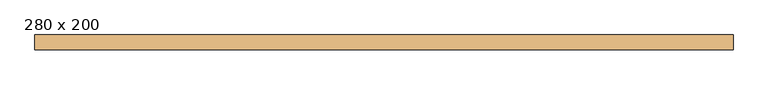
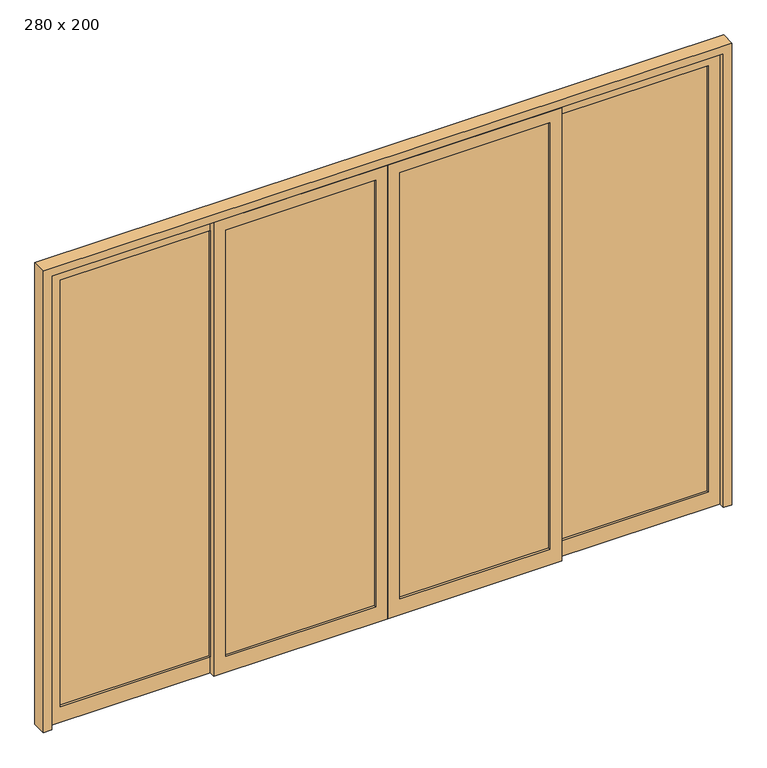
"""IFC4 building model written with IfcOpenShell, lengths in millimetres: door geometry, PORTA TELADA COM ESQUADRIA DE CORRER - 4 FOLHAS : 280 x 200."""

from ifc_helpers import new_model, si_unit, frame, origin, place, context, project, spatial, polyline, outline, extrude, source, transform, mapped, element, save


def door_280_x_200_146a4e26(model_context):
    return source(origin(), model_context, "Body", "SweptSolid", [
        extrude(outline(polyline([(1495.0, -26.5317069), (1495.0, -32.5317069), (870.0, -32.5317069), (870.0, -26.5317069), (1495.0, -26.5317069)])), frame((0.0, 0.0, 70.0), z_axis=(0.0, 0.0, 1.0), x_axis=(1.0, 0.0, 0.0)), (0.0, 0.0, 1.0), 1880.0),
        extrude(outline(polyline([(2000.0, 1545.0), (2000.0, 820.0), (0.0, 820.0), (0.0, 1545.0), (2000.0, 1545.0)]), holes=[polyline([(1950.0, 1495.0), (70.0, 1495.0), (70.0, 870.0), (1950.0, 870.0), (1950.0, 1495.0)])]), frame((0.0, -42.0317069, 0.0), z_axis=(0.0, 1.0, 0.0), x_axis=(0.0, 0.0, 1.0)), (0.0, 0.0, 1.0), 25.0),
        extrude(outline(polyline([(-580.0, -26.5317069), (-580.0, -32.5317069), (-1205.0, -32.5317069), (-1205.0, -26.5317069), (-580.0, -26.5317069)])), frame((0.0, 0.0, 70.0), z_axis=(0.0, 0.0, 1.0), x_axis=(1.0, 0.0, 0.0)), (0.0, 0.0, 1.0), 1880.0),
        extrude(outline(polyline([(2000.0, -530.0), (2000.0, -1255.0), (0.0, -1255.0), (0.0, -530.0), (2000.0, -530.0)]), holes=[polyline([(1950.0, -580.0), (70.0, -580.0), (70.0, -1205.0), (1950.0, -1205.0), (1950.0, -580.0)])]), frame((0.0, -42.0317069, 0.0), z_axis=(0.0, 1.0, 0.0), x_axis=(0.0, 0.0, 1.0)), (0.0, 0.0, 1.0), 25.0),
        extrude(outline(polyline([(195.0, -57.5317069), (195.0, -51.5317069), (820.0, -51.5317069), (820.0, -57.5317069), (195.0, -57.5317069)])), frame((0.0, 0.0, 70.0), z_axis=(0.0, 0.0, 1.0), x_axis=(1.0, 0.0, 0.0)), (0.0, 0.0, 1.0), 1880.0),
        extrude(outline(polyline([(2000.0, 145.0), (0.0, 145.0), (0.0, 870.0), (2000.0, 870.0), (2000.0, 145.0)]), holes=[polyline([(1950.0, 195.0), (1950.0, 820.0), (70.0, 820.0), (70.0, 195.0), (1950.0, 195.0)])]), frame((0.0, -67.0317069, 0.0), z_axis=(0.0, 1.0, 0.0), x_axis=(0.0, 0.0, 1.0)), (0.0, 0.0, 1.0), 25.0),
        extrude(outline(polyline([(95.0, -51.5317069), (95.0, -57.5317069), (-530.0, -57.5317069), (-530.0, -51.5317069), (95.0, -51.5317069)])), frame((0.0, 0.0, 70.0), z_axis=(0.0, 0.0, 1.0), x_axis=(1.0, 0.0, 0.0)), (0.0, 0.0, 1.0), 1880.0),
        extrude(outline(polyline([(2000.0, 145.0), (2000.0, -580.0), (0.0, -580.0), (0.0, 145.0), (2000.0, 145.0)]), holes=[polyline([(1950.0, 95.0), (70.0, 95.0), (70.0, -530.0), (1950.0, -530.0), (1950.0, 95.0)])]), frame((0.0, -67.0317069, 0.0), z_axis=(0.0, 1.0, 0.0), x_axis=(0.0, 0.0, 1.0)), (0.0, 0.0, 1.0), 25.0),
        extrude(outline(polyline([(2035.0, -1290.0), (0.0, -1290.0), (0.0, -1255.0), (2000.0, -1255.0), (2000.0, 1545.0), (0.0, 1545.0), (0.0, 1580.0), (2035.0, 1580.0), (2035.0, -1290.0)])), frame((0.0, -67.0317069, 0.0), z_axis=(0.0, 1.0, 0.0), x_axis=(0.0, 0.0, 1.0)), (0.0, 0.0, 1.0), 60.0),
    ])


if __name__ == "__main__":
    model = new_model("IFC4")
    model_context = context("Model", 3, world=origin())
    ifc_project = project(units=[si_unit("LENGTHUNIT", "METRE", prefix="MILLI")], contexts=[model_context])
    site = spatial("IfcSite", under=ifc_project)
    building = spatial("IfcBuilding", under=site)
    placement = place(None, origin())
    door_280_x_200_shape = door_280_x_200_146a4e26(model_context)
    element("IfcDoor", 1, ObjectType="PORTA TELADA COM ESQUADRIA DE CORRER - 4 FOLHAS : 280 x 200", at=placement, inside=building, context=model_context, shape_type="MappedRepresentation", body=[
        mapped(door_280_x_200_shape, transform((0.0, 0.0, 0.0), x_axis=(1.0, 0.0, 0.0), y_axis=(0.0, 1.0, 0.0), z_axis=(0.0, 0.0, 1.0))),
    ])
    save(model, "model.ifc")
